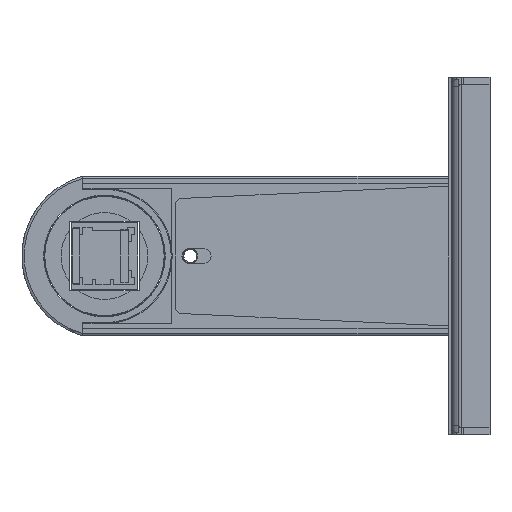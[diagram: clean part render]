
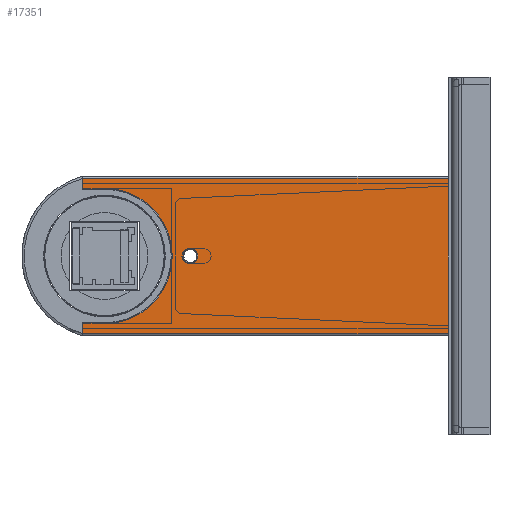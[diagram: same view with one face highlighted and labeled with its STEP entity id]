
A CAD part, left-side view. The second image highlights one B-rep face of the part: STEP entity #17351.
In plain terms, the highlighted planar face has unit normal (-1, 0, 0).
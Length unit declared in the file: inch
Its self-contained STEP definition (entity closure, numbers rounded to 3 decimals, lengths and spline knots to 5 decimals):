
#371=FACE_BOUND('',#1553,.T.);
#564=FACE_OUTER_BOUND('',#1552,.T.);
#1552=EDGE_LOOP('',(#11523,#11524,#11525,#11526,#11527,#11528,#11529,#11530));
#1553=EDGE_LOOP('',(#11531));
#2733=CIRCLE('',#18536,0.55906);
#2734=CIRCLE('',#18537,0.06299);
#2978=LINE('',#24594,#5191);
#2979=LINE('',#24596,#5192);
#2980=LINE('',#24598,#5193);
#2981=LINE('',#24600,#5194);
#2982=LINE('',#24602,#5195);
#2983=LINE('',#24604,#5196);
#2984=LINE('',#24607,#5197);
#5191=VECTOR('',#19821,0.09055);
#5192=VECTOR('',#19822,3.01181);
#5193=VECTOR('',#19823,1.27953);
#5194=VECTOR('',#19824,3.01181);
#5195=VECTOR('',#19825,0.09055);
#5196=VECTOR('',#19826,0.28161);
#5197=VECTOR('',#19829,0.28161);
#7404=VERTEX_POINT('',#24592);
#7405=VERTEX_POINT('',#24593);
#7406=VERTEX_POINT('',#24595);
#7407=VERTEX_POINT('',#24597);
#7408=VERTEX_POINT('',#24599);
#7409=VERTEX_POINT('',#24601);
#7410=VERTEX_POINT('',#24603);
#7411=VERTEX_POINT('',#24605);
#7412=VERTEX_POINT('',#24608);
#9030=EDGE_CURVE('',#7404,#7405,#2978,.T.);
#9031=EDGE_CURVE('',#7405,#7406,#2979,.T.);
#9032=EDGE_CURVE('',#7407,#7406,#2980,.T.);
#9033=EDGE_CURVE('',#7407,#7408,#2981,.T.);
#9034=EDGE_CURVE('',#7408,#7409,#2982,.T.);
#9035=EDGE_CURVE('',#7410,#7409,#2983,.T.);
#9036=EDGE_CURVE('',#7411,#7410,#2733,.T.);
#9037=EDGE_CURVE('',#7411,#7404,#2984,.T.);
#9038=EDGE_CURVE('',#7412,#7412,#2734,.T.);
#11523=ORIENTED_EDGE('',*,*,#9030,.T.);
#11524=ORIENTED_EDGE('',*,*,#9031,.T.);
#11525=ORIENTED_EDGE('',*,*,#9032,.F.);
#11526=ORIENTED_EDGE('',*,*,#9033,.T.);
#11527=ORIENTED_EDGE('',*,*,#9034,.T.);
#11528=ORIENTED_EDGE('',*,*,#9035,.F.);
#11529=ORIENTED_EDGE('',*,*,#9036,.F.);
#11530=ORIENTED_EDGE('',*,*,#9037,.T.);
#11531=ORIENTED_EDGE('',*,*,#9038,.F.);
#16485=PLANE('',#18535);
#17351=ADVANCED_FACE('',(#564,#371),#16485,.T.);
#18535=AXIS2_PLACEMENT_3D('',#24591,#19819,#19820);
#18536=AXIS2_PLACEMENT_3D('',#24606,#19827,#19828);
#18537=AXIS2_PLACEMENT_3D('',#24609,#19830,#19831);
#19819=DIRECTION('center_axis',(-1.,0.,0.));
#19820=DIRECTION('ref_axis',(0.,0.,1.));
#19821=DIRECTION('',(0.,0.,-1.));
#19822=DIRECTION('',(0.,-1.,0.));
#19823=DIRECTION('',(0.,0.,-1.));
#19824=DIRECTION('',(0.,1.,0.));
#19825=DIRECTION('',(0.,0.,-1.));
#19826=DIRECTION('',(0.,1.,0.));
#19827=DIRECTION('center_axis',(-1.,0.,0.));
#19828=DIRECTION('ref_axis',(0.,-1.,0.));
#19829=DIRECTION('',(0.,1.,0.));
#19830=DIRECTION('center_axis',(-1.,0.,0.));
#19831=DIRECTION('ref_axis',(0.,-1.,0.));
#24591=CARTESIAN_POINT('Origin',(-1.27953,0.,-0.65945));
#24592=CARTESIAN_POINT('',(-1.27953,3.34646,-0.54921));
#24593=CARTESIAN_POINT('',(-1.27953,3.34646,-0.63976));
#24594=CARTESIAN_POINT('',(-1.27953,3.34646,-0.54921));
#24595=CARTESIAN_POINT('',(-1.27953,0.33465,-0.63976));
#24596=CARTESIAN_POINT('',(-1.27953,3.34646,-0.63976));
#24597=CARTESIAN_POINT('',(-1.27953,0.33465,0.63976));
#24598=CARTESIAN_POINT('',(-1.27953,0.33465,0.63976));
#24599=CARTESIAN_POINT('',(-1.27953,3.34646,0.63976));
#24600=CARTESIAN_POINT('',(-1.27953,0.33465,0.63976));
#24601=CARTESIAN_POINT('',(-1.27953,3.34646,0.54921));
#24602=CARTESIAN_POINT('',(-1.27953,3.34646,0.63976));
#24603=CARTESIAN_POINT('',(-1.27953,3.06485,0.54921));
#24604=CARTESIAN_POINT('',(-1.27953,3.06485,0.54921));
#24605=CARTESIAN_POINT('',(-1.27953,3.06485,-0.54921));
#24606=CARTESIAN_POINT('Origin',(-1.27953,3.16929,0.));
#24607=CARTESIAN_POINT('',(-1.27953,3.06485,-0.54921));
#24608=CARTESIAN_POINT('',(-1.27953,2.52362,0.));
#24609=CARTESIAN_POINT('Origin',(-1.27953,2.46063,0.));
